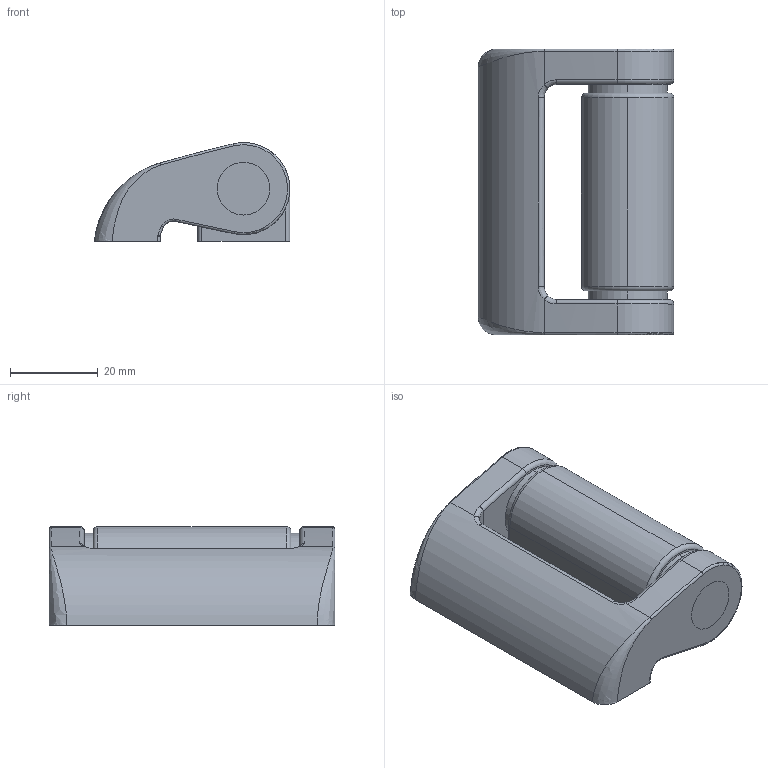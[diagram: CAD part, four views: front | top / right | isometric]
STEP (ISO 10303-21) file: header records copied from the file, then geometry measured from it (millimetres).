
FILE_DESCRIPTION (( 'STEP AP214' ), '1' );
FILE_NAME ('ZF_STEP_HC_LL_A08.step', '2018-06-29T06:39:06', ( 'Pizzato Elettrica' ), ( 'Microsoft' ), 'SwSTEP 2.0', 'SolidWorks 2014', '' );
FILE_SCHEMA (( 'AUTOMOTIVE_DESIGN' ));
Length unit declared in the file: millimetre
Products named in the file (3): Pizzato_Parte_Mobile_HC_LL; Pizzato_Parte_Fissa_HC_LL; ZF_STEP_HC_LL_A08
Assembly tree (2 placements, depth 2):
  ZF_STEP_HC_LL_A08
    Pizzato_Parte_Fissa_HC_LL
    Pizzato_Parte_Mobile_HC_LL
Bounding box: 44.5 x 65 x 22.5 mm (x, y, z)
Volume: 40031.9 mm3; surface area: 12506.4 mm2
Topology: 2 solids, 2 shells, 258 faces, 657 edges, 419 vertices
Faces by surface type: plane 102, bspline 82, cylinder 47, torus 19, cone 8
Entity records: 11970 total; most frequent: CARTESIAN_POINT 6160, ORIENTED_EDGE 1298, DIRECTION 962, EDGE_CURVE 649, VERTEX_POINT 419, VECTOR 352, LINE 352, AXIS2_PLACEMENT_3D 305
